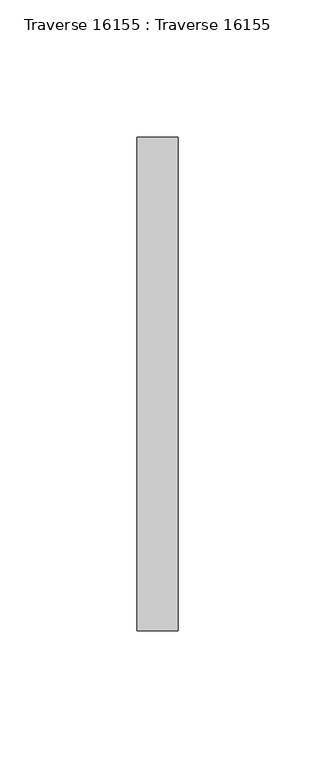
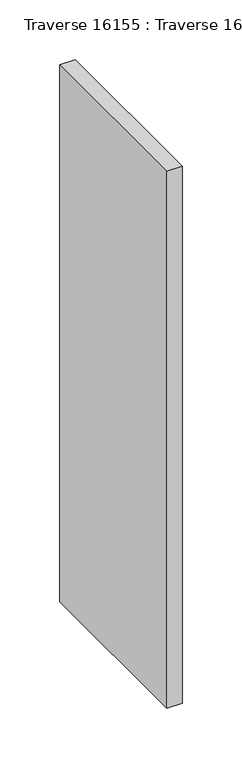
"""IFC4 building model written with IfcOpenShell, lengths in millimetres: beam geometry, Traverse 16155 : Traverse 16155."""

from ifc_helpers import new_model, si_unit, frame, origin, place, context, project, spatial, polyline, outline, extrude, source, transform, mapped, element, save


def traverse_16155_traverse_16155_ce576ebf(model_context):
    return source(origin(), model_context, "Body", "SweptSolid", [
        extrude(outline(polyline([(6944.8183236, 15390.0098143), (7495.05, 15390.0313952), (7495.0505883, 15375.0313952), (6944.8183236, 15375.0098143), (6944.8183236, 15390.0098143)])), frame((0.0, -4390.0, 0.0), z_axis=(0.0, 1.0, 0.0), x_axis=(0.0, 0.0, 1.0)), (0.0, 0.0, 1.0), 180.0),
    ])


if __name__ == "__main__":
    model = new_model("IFC4")
    model_context = context("Model", 3, world=origin())
    ifc_project = project(units=[si_unit("LENGTHUNIT", "METRE", prefix="MILLI")], contexts=[model_context])
    site = spatial("IfcSite", under=ifc_project)
    building = spatial("IfcBuilding", under=site)
    placement = place(None, origin())
    traverse_16155_traverse_16155_shape = traverse_16155_traverse_16155_ce576ebf(model_context)
    element("IfcBeam", 1, ObjectType="Traverse 16155 : Traverse 16155", at=placement, inside=building, context=model_context, shape_type="MappedRepresentation", body=[
        mapped(traverse_16155_traverse_16155_shape, transform((0.0, 0.0, 0.0), x_axis=(1.0, 0.0, 0.0), y_axis=(0.0, 1.0, 0.0), z_axis=(0.0, 0.0, 1.0))),
    ])
    save(model, "model.ifc")
